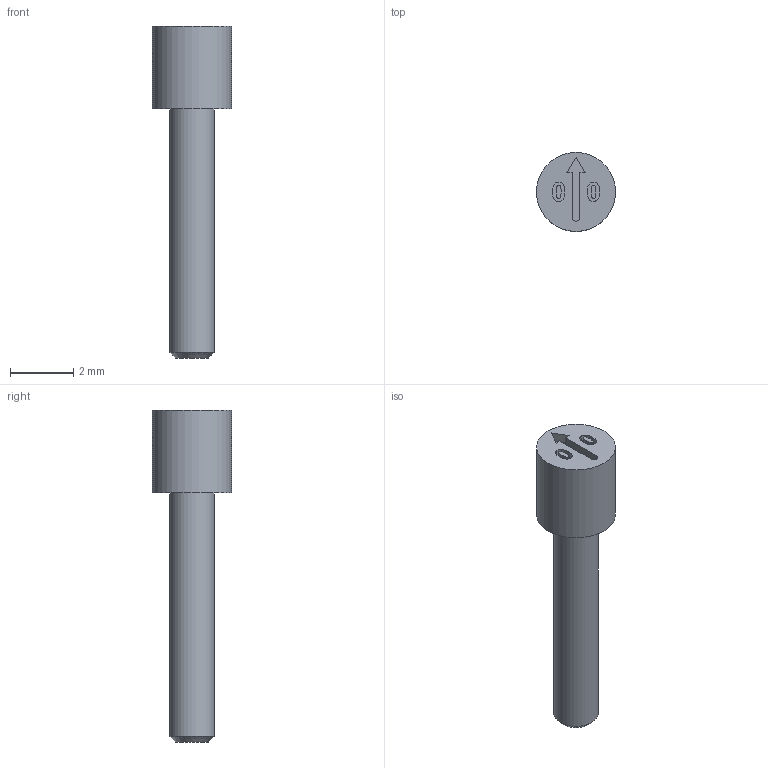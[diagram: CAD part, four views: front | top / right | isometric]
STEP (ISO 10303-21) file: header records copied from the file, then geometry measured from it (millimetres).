
FILE_DESCRIPTION(/* description */ (''),/* implementation_level */ '2;1');
FILE_NAME(/* name */ 'D2900-IY4.step',/* time_stamp */ '2025-11-13T16:05:41+01:00',/* author */ (''),/* organization */ (''),/* preprocessor_version */ 'ST-DEVELOPER v20.1',/* originating_system */ 'Autodesk Translation Framework v14.21.0.0',/* authorisation */ '');
FILE_SCHEMA (('AUTOMOTIVE_DESIGN { 1 0 10303 214 3 1 1 }'));
Length unit declared in the file: millimetre
Products named in the file (1): D2900-IY4
Bounding box: 2.5 x 2.5 x 10.5 mm (x, y, z)
Volume: 24.7 mm3; surface area: 67 mm2
Topology: 1 solids, 1 shells, 58 faces, 149 edges, 99 vertices
Faces by surface type: bspline 40, plane 14, cylinder 3, cone 1
Full cylindrical faces by diameter (mm): 1.4 x1, 2.5 x1
Entity records: 2165 total; most frequent: CARTESIAN_POINT 987, ORIENTED_EDGE 298, EDGE_CURVE 149, DIRECTION 114, VERTEX_POINT 99, B_SPLINE_CURVE_WITH_KNOTS 80, EDGE_LOOP 64, LINE 62
